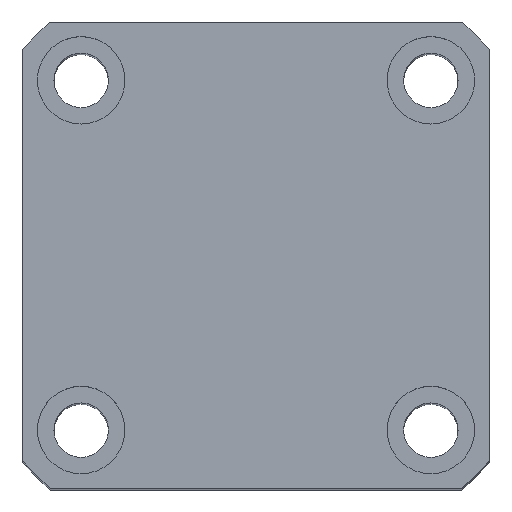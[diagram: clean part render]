
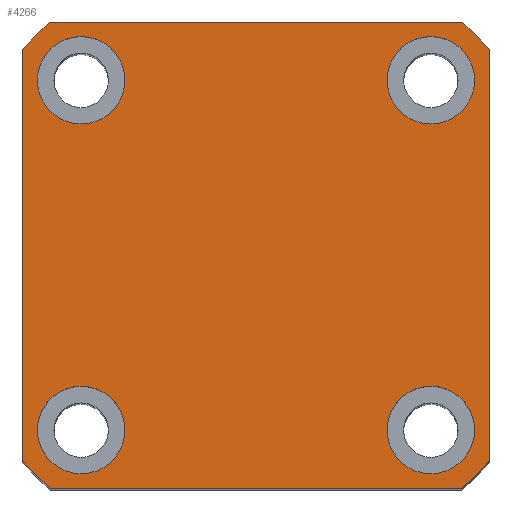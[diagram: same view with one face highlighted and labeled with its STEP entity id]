
A CAD part, top view. The second image highlights one B-rep face of the part: STEP entity #4266.
In plain terms, the highlighted planar face has unit normal (0, 0, 1) as drawn and (1, 0, 0) by its records, which use the part's own axes.
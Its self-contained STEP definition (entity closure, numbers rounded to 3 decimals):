
#8 = DIRECTION ( 'NONE',  ( 1., 0., 0. ) ) ;
#85 = AXIS2_PLACEMENT_3D ( 'NONE', #5603, #626, #6412 ) ;
#212 = AXIS2_PLACEMENT_3D ( 'NONE', #9424, #2943, #8690 ) ;
#373 = AXIS2_PLACEMENT_3D ( 'NONE', #7529, #2606, #8344 ) ;
#614 = EDGE_LOOP ( 'NONE', ( #4366, #5009 ) ) ;
#626 = DIRECTION ( 'NONE',  ( 1., 0., 0. ) ) ;
#633 = AXIS2_PLACEMENT_3D ( 'NONE', #8999, #9074, #5839 ) ;
#878 = CARTESIAN_POINT ( 'NONE',  ( 100., 18., 18. ) ) ;
#943 = CIRCLE ( 'NONE', #6184, 4.5 ) ;
#946 = DIRECTION ( 'NONE',  ( 0., 0., -1. ) ) ;
#980 = DIRECTION ( 'NONE',  ( 1., 0., 0. ) ) ;
#1092 = ORIENTED_EDGE ( 'NONE', *, *, #1181, .T. ) ;
#1144 = CARTESIAN_POINT ( 'NONE',  ( 100., -18., -22.5 ) ) ;
#1179 = VECTOR ( 'NONE', #5632, 1000. ) ;
#1181 = EDGE_CURVE ( 'NONE', #6957, #2410, #7168, .T. ) ;
#1218 = ORIENTED_EDGE ( 'NONE', *, *, #2849, .T. ) ;
#1302 = DIRECTION ( 'NONE',  ( -1., 0., 0. ) ) ;
#1466 = EDGE_CURVE ( 'NONE', #7476, #7593, #3949, .T. ) ;
#1500 = CARTESIAN_POINT ( 'NONE',  ( 100., 18., -22.5 ) ) ;
#1564 = CARTESIAN_POINT ( 'NONE',  ( 100., 18., -18. ) ) ;
#1595 = VERTEX_POINT ( 'NONE', #3259 ) ;
#1621 = CARTESIAN_POINT ( 'NONE',  ( 100., 24., 24. ) ) ;
#1631 = EDGE_CURVE ( 'NONE', #7593, #7476, #943, .T. ) ;
#1767 = AXIS2_PLACEMENT_3D ( 'NONE', #7644, #2720, #8463 ) ;
#1793 = CIRCLE ( 'NONE', #373, 4.5 ) ;
#1797 = FACE_OUTER_BOUND ( 'NONE', #4106, .T. ) ;
#1879 = ORIENTED_EDGE ( 'NONE', *, *, #6106, .F. ) ;
#2136 = ORIENTED_EDGE ( 'NONE', *, *, #8155, .F. ) ;
#2203 = VERTEX_POINT ( 'NONE', #5739 ) ;
#2246 = CIRCLE ( 'NONE', #6480, 4.5 ) ;
#2282 = DIRECTION ( 'NONE',  ( 0., 1., 0. ) ) ;
#2310 = CARTESIAN_POINT ( 'NONE',  ( 100., 24., 24. ) ) ;
#2332 = CIRCLE ( 'NONE', #3228, 4.5 ) ;
#2353 = DIRECTION ( 'NONE',  ( -1., 0., 0. ) ) ;
#2406 = ORIENTED_EDGE ( 'NONE', *, *, #4320, .T. ) ;
#2410 = VERTEX_POINT ( 'NONE', #3648 ) ;
#2425 = DIRECTION ( 'NONE',  ( 0., 0., -1. ) ) ;
#2429 = CARTESIAN_POINT ( 'NONE',  ( 100., 21.166, -24. ) ) ;
#2525 = EDGE_CURVE ( 'NONE', #8719, #5263, #9438, .T. ) ;
#2606 = DIRECTION ( 'NONE',  ( 1., 0., 0. ) ) ;
#2625 = EDGE_CURVE ( 'NONE', #1595, #9408, #4788, .T. ) ;
#2720 = DIRECTION ( 'NONE',  ( -1., 0., 0. ) ) ;
#2763 = CIRCLE ( 'NONE', #10482, 4.5 ) ;
#2781 = CARTESIAN_POINT ( 'NONE',  ( 100., -21.166, -24. ) ) ;
#2849 = EDGE_CURVE ( 'NONE', #8719, #10661, #3505, .T. ) ;
#2850 = DIRECTION ( 'NONE',  ( 1., 0., 0. ) ) ;
#2943 = DIRECTION ( 'NONE',  ( 1., 0., 0. ) ) ;
#3027 = CARTESIAN_POINT ( 'NONE',  ( 100., -18., -18. ) ) ;
#3051 = ORIENTED_EDGE ( 'NONE', *, *, #2525, .F. ) ;
#3210 = CIRCLE ( 'NONE', #1767, 32. ) ;
#3228 = AXIS2_PLACEMENT_3D ( 'NONE', #4976, #8, #5807 ) ;
#3259 = CARTESIAN_POINT ( 'NONE',  ( 100., -18., -13.5 ) ) ;
#3329 = ORIENTED_EDGE ( 'NONE', *, *, #8368, .F. ) ;
#3375 = AXIS2_PLACEMENT_3D ( 'NONE', #7291, #2353, #8094 ) ;
#3505 = LINE ( 'NONE', #6375, #5706 ) ;
#3648 = CARTESIAN_POINT ( 'NONE',  ( 100., -21.166, 24. ) ) ;
#3657 = CARTESIAN_POINT ( 'NONE',  ( 100., 0., 0. ) ) ;
#3737 = LINE ( 'NONE', #7080, #10067 ) ;
#3847 = DIRECTION ( 'NONE',  ( 0., 0., -1. ) ) ;
#3949 = CIRCLE ( 'NONE', #633, 4.5 ) ;
#4003 = FACE_BOUND ( 'NONE', #5585, .T. ) ;
#4106 = EDGE_LOOP ( 'NONE', ( #1218, #1879, #8704, #2136, #1092, #8714, #2406, #3051 ) ) ;
#4263 = FACE_BOUND ( 'NONE', #10218, .T. ) ;
#4266 = ADVANCED_FACE ( 'NONE', ( #4263, #8899, #6186, #4003, #1797 ), #7868, .T. ) ;
#4320 = EDGE_CURVE ( 'NONE', #2203, #5263, #3737, .T. ) ;
#4366 = ORIENTED_EDGE ( 'NONE', *, *, #9990, .F. ) ;
#4471 = DIRECTION ( 'NONE',  ( 0., 0., 1. ) ) ;
#4788 = CIRCLE ( 'NONE', #9443, 4.5 ) ;
#4976 = CARTESIAN_POINT ( 'NONE',  ( 100., -18., 18. ) ) ;
#5009 = ORIENTED_EDGE ( 'NONE', *, *, #6554, .F. ) ;
#5263 = VERTEX_POINT ( 'NONE', #10506 ) ;
#5279 = ORIENTED_EDGE ( 'NONE', *, *, #8790, .F. ) ;
#5405 = CARTESIAN_POINT ( 'NONE',  ( 100., 21.166, 24. ) ) ;
#5585 = EDGE_LOOP ( 'NONE', ( #7813, #8443 ) ) ;
#5603 = CARTESIAN_POINT ( 'NONE',  ( 100., 18., -18. ) ) ;
#5632 = DIRECTION ( 'NONE',  ( 0., 0., 1. ) ) ;
#5654 = ORIENTED_EDGE ( 'NONE', *, *, #2625, .F. ) ;
#5706 = VECTOR ( 'NONE', #2282, 1000. ) ;
#5739 = CARTESIAN_POINT ( 'NONE',  ( 100., -24., 21.166 ) ) ;
#5807 = DIRECTION ( 'NONE',  ( 0., 0., -1. ) ) ;
#5839 = DIRECTION ( 'NONE',  ( 0., 0., -1. ) ) ;
#5852 = LINE ( 'NONE', #2310, #1179 ) ;
#6055 = AXIS2_PLACEMENT_3D ( 'NONE', #3657, #9411, #4471 ) ;
#6106 = EDGE_CURVE ( 'NONE', #10346, #10661, #10692, .T. ) ;
#6184 = AXIS2_PLACEMENT_3D ( 'NONE', #878, #980, #946 ) ;
#6186 = FACE_BOUND ( 'NONE', #614, .T. ) ;
#6257 = CARTESIAN_POINT ( 'NONE',  ( 100., 0., 0. ) ) ;
#6375 = CARTESIAN_POINT ( 'NONE',  ( 100., 24., -24. ) ) ;
#6412 = DIRECTION ( 'NONE',  ( 0., 0., -1. ) ) ;
#6480 = AXIS2_PLACEMENT_3D ( 'NONE', #7777, #2850, #8595 ) ;
#6554 = EDGE_CURVE ( 'NONE', #8778, #10568, #8359, .T. ) ;
#6724 = EDGE_CURVE ( 'NONE', #2203, #2410, #3210, .T. ) ;
#6957 = VERTEX_POINT ( 'NONE', #5405 ) ;
#7080 = CARTESIAN_POINT ( 'NONE',  ( 100., -24., 24. ) ) ;
#7093 = DIRECTION ( 'NONE',  ( 0., 0., 1. ) ) ;
#7168 = LINE ( 'NONE', #1621, #9357 ) ;
#7232 = AXIS2_PLACEMENT_3D ( 'NONE', #6257, #1302, #7093 ) ;
#7246 = EDGE_CURVE ( 'NONE', #7680, #8584, #2332, .T. ) ;
#7291 = CARTESIAN_POINT ( 'NONE',  ( 100., 0., 0. ) ) ;
#7352 = DIRECTION ( 'NONE',  ( 1., 0., 0. ) ) ;
#7476 = VERTEX_POINT ( 'NONE', #10192 ) ;
#7493 = VERTEX_POINT ( 'NONE', #9355 ) ;
#7529 = CARTESIAN_POINT ( 'NONE',  ( 100., -18., 18. ) ) ;
#7593 = VERTEX_POINT ( 'NONE', #9852 ) ;
#7635 = CARTESIAN_POINT ( 'NONE',  ( 100., -18., 13.5 ) ) ;
#7644 = CARTESIAN_POINT ( 'NONE',  ( 100., 0., 0. ) ) ;
#7680 = VERTEX_POINT ( 'NONE', #8316 ) ;
#7739 = CARTESIAN_POINT ( 'NONE',  ( 100., 18., -13.5 ) ) ;
#7777 = CARTESIAN_POINT ( 'NONE',  ( 100., -18., -18. ) ) ;
#7813 = ORIENTED_EDGE ( 'NONE', *, *, #1466, .F. ) ;
#7868 = PLANE ( 'NONE',  #212 ) ;
#8094 = DIRECTION ( 'NONE',  ( 0., 0., 1. ) ) ;
#8155 = EDGE_CURVE ( 'NONE', #6957, #7493, #9937, .T. ) ;
#8316 = CARTESIAN_POINT ( 'NONE',  ( 100., -18., 22.5 ) ) ;
#8344 = DIRECTION ( 'NONE',  ( 0., 0., -1. ) ) ;
#8359 = CIRCLE ( 'NONE', #85, 4.5 ) ;
#8368 = EDGE_CURVE ( 'NONE', #8584, #7680, #1793, .T. ) ;
#8434 = DIRECTION ( 'NONE',  ( 0., -1., 0. ) ) ;
#8443 = ORIENTED_EDGE ( 'NONE', *, *, #1631, .F. ) ;
#8463 = DIRECTION ( 'NONE',  ( 0., 0., 1. ) ) ;
#8584 = VERTEX_POINT ( 'NONE', #7635 ) ;
#8595 = DIRECTION ( 'NONE',  ( 0., 0., -1. ) ) ;
#8690 = DIRECTION ( 'NONE',  ( 0., 0., -1. ) ) ;
#8704 = ORIENTED_EDGE ( 'NONE', *, *, #10561, .T. ) ;
#8714 = ORIENTED_EDGE ( 'NONE', *, *, #6724, .F. ) ;
#8719 = VERTEX_POINT ( 'NONE', #2781 ) ;
#8778 = VERTEX_POINT ( 'NONE', #7739 ) ;
#8782 = DIRECTION ( 'NONE',  ( 1., 0., 0. ) ) ;
#8790 = EDGE_CURVE ( 'NONE', #9408, #1595, #2246, .T. ) ;
#8899 = FACE_BOUND ( 'NONE', #9939, .T. ) ;
#8999 = CARTESIAN_POINT ( 'NONE',  ( 100., 18., 18. ) ) ;
#9074 = DIRECTION ( 'NONE',  ( 1., 0., 0. ) ) ;
#9355 = CARTESIAN_POINT ( 'NONE',  ( 100., 24., 21.166 ) ) ;
#9357 = VECTOR ( 'NONE', #8434, 1000. ) ;
#9408 = VERTEX_POINT ( 'NONE', #1144 ) ;
#9411 = DIRECTION ( 'NONE',  ( -1., 0., 0. ) ) ;
#9424 = CARTESIAN_POINT ( 'NONE',  ( 100., 0., 0. ) ) ;
#9438 = CIRCLE ( 'NONE', #7232, 32. ) ;
#9443 = AXIS2_PLACEMENT_3D ( 'NONE', #3027, #8782, #3847 ) ;
#9465 = CARTESIAN_POINT ( 'NONE',  ( 100., 24., -21.166 ) ) ;
#9526 = DIRECTION ( 'NONE',  ( 0., 0., -1. ) ) ;
#9781 = ORIENTED_EDGE ( 'NONE', *, *, #7246, .F. ) ;
#9852 = CARTESIAN_POINT ( 'NONE',  ( 100., 18., 22.5 ) ) ;
#9937 = CIRCLE ( 'NONE', #3375, 32. ) ;
#9939 = EDGE_LOOP ( 'NONE', ( #3329, #9781 ) ) ;
#9990 = EDGE_CURVE ( 'NONE', #10568, #8778, #2763, .T. ) ;
#10067 = VECTOR ( 'NONE', #9526, 1000. ) ;
#10192 = CARTESIAN_POINT ( 'NONE',  ( 100., 18., 13.5 ) ) ;
#10218 = EDGE_LOOP ( 'NONE', ( #5279, #5654 ) ) ;
#10346 = VERTEX_POINT ( 'NONE', #9465 ) ;
#10482 = AXIS2_PLACEMENT_3D ( 'NONE', #1564, #7352, #2425 ) ;
#10506 = CARTESIAN_POINT ( 'NONE',  ( 100., -24., -21.166 ) ) ;
#10561 = EDGE_CURVE ( 'NONE', #10346, #7493, #5852, .T. ) ;
#10568 = VERTEX_POINT ( 'NONE', #1500 ) ;
#10661 = VERTEX_POINT ( 'NONE', #2429 ) ;
#10692 = CIRCLE ( 'NONE', #6055, 32. ) ;
